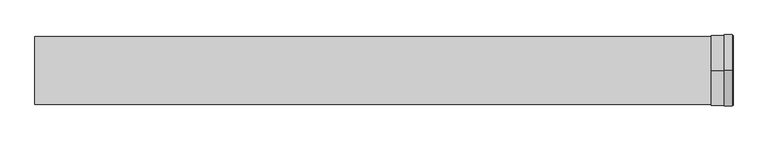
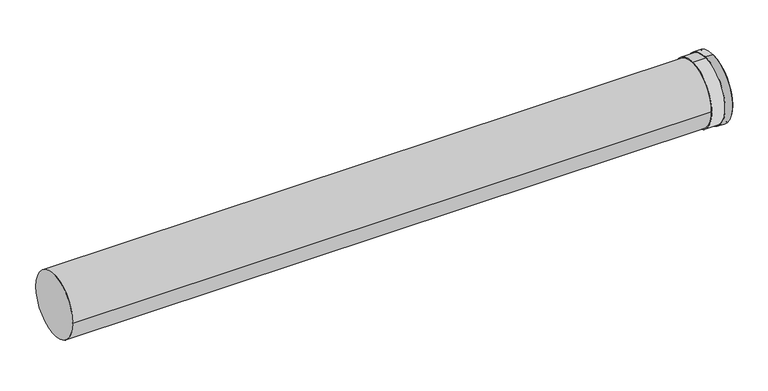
"""IFC4 building model written with IfcOpenShell, lengths in millimetres: duct fitting geometry, RSFen_DUF_UN_Twinline Extension_M&G : ø130-150-200."""

from ifc_helpers import new_model, si_unit, point, frame, origin, origin_2d, place, context, project, spatial, polyline, circle_curve, trimmed, segment, composite_curve, outline, extrude, source, transform, mapped, element, save
from ifc_brep_helpers import plane_surface, cylinder_surface, revolved_surface, advanced_brep


def duct_fitting_fbf5378a(model_context):
    return source(origin(), model_context, "Body", "SolidModel", [
        extrude(outline(composite_curve([segment(trimmed(circle_curve(origin_2d(), 106.0), [point((0.0, 106.0))], [point((0.0, -106.0))], False, "CARTESIAN"), True, "CONTINUOUS"), segment(trimmed(circle_curve(origin_2d(), 106.0), [point((0.0, -106.0))], [point((0.0, 106.0))], False, "CARTESIAN"), True, "CONTINUOUS")], self_intersect=False), holes=[composite_curve([segment(trimmed(circle_curve(origin_2d(), 103.0), [point((0.0, -103.0))], [point((0.0, 103.0))], True, "CARTESIAN"), True, "CONTINUOUS"), segment(trimmed(circle_curve(origin_2d(), 103.0), [point((0.0, 103.0))], [point((0.0, -103.0))], True, "CARTESIAN"), True, "CONTINUOUS")], self_intersect=False)]), frame((2034.5, 0.0, 0.0), z_axis=(1.0, 0.0, 0.0), x_axis=(0.0, 1.0, 0.0)), (0.0, 0.0, 1.0), 22.5),
        advanced_brep(
        [(2060.0, 0.0, -103.0), (2060.0, 0.0, 103.0), (2060.0, 0.0, 99.0), (2060.0, 0.0, -99.0), (1995.0, 0.0, -103.0), (1995.0, 0.0, 103.0), (2000.0, 0.0, -99.0), (2000.0, 0.0, 99.0)],
        [
            (0, 1, circle_curve(frame((2060.0, 0.0, 0.0), z_axis=(1.0, 0.0, 0.0), x_axis=(0.0, 0.0, 1.0)), 103.0)),
            (1, 0, circle_curve(frame((2060.0, 0.0, 0.0), z_axis=(1.0, 0.0, 0.0), x_axis=(0.0, 0.0, 1.0)), 103.0)),
            (2, 3, circle_curve(frame((2060.0, 0.0, 0.0), z_axis=(-1.0, 0.0, 0.0), x_axis=(0.0, 0.0, 1.0)), 99.0)),
            (3, 2, circle_curve(frame((2060.0, 0.0, 0.0), z_axis=(-1.0, 0.0, 0.0), x_axis=(0.0, 0.0, 1.0)), 99.0)),
            (4, 5, circle_curve(frame((1995.0, 0.0, 0.0), z_axis=(-1.0, 0.0, 0.0), x_axis=(0.0, 0.0, 1.0)), 103.0)),
            (5, 4, circle_curve(frame((1995.0, 0.0, 0.0), z_axis=(-1.0, 0.0, 0.0), x_axis=(0.0, 0.0, 1.0)), 103.0)),
            (0, 4),
            (5, 1),
            (6, 7, circle_curve(frame((2000.0, 0.0, 0.0), z_axis=(1.0, 0.0, 0.0), x_axis=(0.0, 0.0, 1.0)), 99.0)),
            (7, 6, circle_curve(frame((2000.0, 0.0, 0.0), z_axis=(1.0, 0.0, 0.0), x_axis=(0.0, 0.0, 1.0)), 99.0)),
            (6, 3),
            (2, 7),
        ],
        [
            plane_surface(frame((2060.0, 0.0, 103.0), z_axis=(1.0, 0.0, 0.0), x_axis=(0.0, -1.0, 0.0))),
            plane_surface(frame((1995.0, 0.0, 103.0), z_axis=(-1.0, 0.0, 0.0), x_axis=(0.0, 1.0, 0.0))),
            cylinder_surface(frame((1995.0, 0.0, 0.0), z_axis=(1.0, 0.0, 0.0), x_axis=(0.0, 0.0, 1.0)), 103.0),
            plane_surface(frame((2000.0, 0.0, 99.0), z_axis=(1.0, 0.0, 0.0), x_axis=(0.0, 1.0, 0.0))),
            revolved_surface(polyline([(2060.0, 0.0, 99.0), (2000.0, 0.0, 99.0)]), (2000.0, 0.0, 0.0), (1.0, 0.0, 0.0)),
        ],
        [
            (0, [[1, 2], [3, 4]]),
            (1, [[5, 6]]),
            (2, [[-1, 7, -6, 8]]),
            (2, [[-2, -8, -5, -7]]),
            (3, [[9, 10]]),
            (4, [[-9, 11, -3, 12]]),
            (4, [[-10, -12, -4, -11]]),
        ],
    ),
        extrude(outline(composite_curve([segment(trimmed(circle_curve(origin_2d(), 100.0), [point((100.0, 0.0))], [point((-100.0, 0.0))], False, "CARTESIAN"), True, "CONTINUOUS"), segment(trimmed(circle_curve(origin_2d(), 100.0), [point((-100.0, 0.0))], [point((100.0, 0.0))], False, "CARTESIAN"), True, "CONTINUOUS")], self_intersect=False)), frame((-2.39e-05, 0.0, 0.0), z_axis=(1.0, 0.0, 0.0), x_axis=(0.0, 1.0, 0.0)), (0.0, 0.0, 1.0), 2000.0),
    ])


if __name__ == "__main__":
    model = new_model("IFC4")
    model_context = context("Model", 3, world=origin())
    ifc_project = project(units=[si_unit("LENGTHUNIT", "METRE", prefix="MILLI")], contexts=[model_context])
    site = spatial("IfcSite", under=ifc_project)
    building = spatial("IfcBuilding", under=site)
    placement = place(None, origin())
    duct_fitting_shape = duct_fitting_fbf5378a(model_context)
    element("IfcDuctFitting", 1, ObjectType="RSFen_DUF_UN_Twinline Extension_M&G : ø130-150-200", at=placement, inside=building, context=model_context, shape_type="MappedRepresentation", body=[
        mapped(duct_fitting_shape, transform((0.0, 0.0, 0.0), x_axis=(1.0, 0.0, 0.0), y_axis=(0.0, 1.0, 0.0), z_axis=(0.0, 0.0, 1.0))),
    ])
    save(model, "model.ifc")
